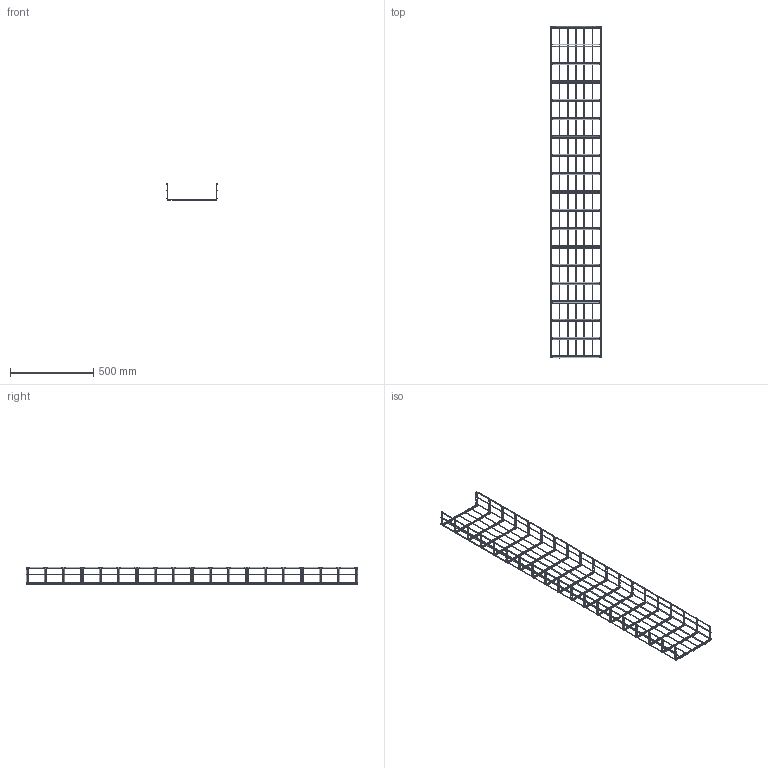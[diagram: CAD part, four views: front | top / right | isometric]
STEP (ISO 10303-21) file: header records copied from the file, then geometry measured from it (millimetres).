
FILE_DESCRIPTION(/* description */ (''),/* implementation_level */ '2;1');
FILE_NAME(/* name */ 'M2_300×100',/* time_stamp */ '2012-11-29T22:11:33+01:00',/* author */ (''),/* organization */ (''),/* preprocessor_version */ 'ST-DEVELOPER v10',/* originating_system */ '',/* authorisation */ '');
FILE_SCHEMA (('AUTOMOTIVE_DESIGN_CC2'));
Length unit declared in the file: millimetre
Products named in the file (1): 1
Bounding box: 304.19 x 1993.52 x 103.94 mm (x, y, z)
Surface area: 481739.9 mm2 (no closed solid volume)
Topology: 0 solids, 333 shells, 644 faces, 1888 edges, 1266 vertices
Faces by surface type: bspline 622, plane 22
Entity records: 53262 total; most frequent: CARTESIAN_POINT 41176, ORIENTED_EDGE 2510, EDGE_CURVE 1888, VERTEX_POINT 1266, B_SPLINE_CURVE_WITH_KNOTS 694, ADVANCED_FACE 644, FACE_OUTER_BOUND 644, EDGE_LOOP 644
